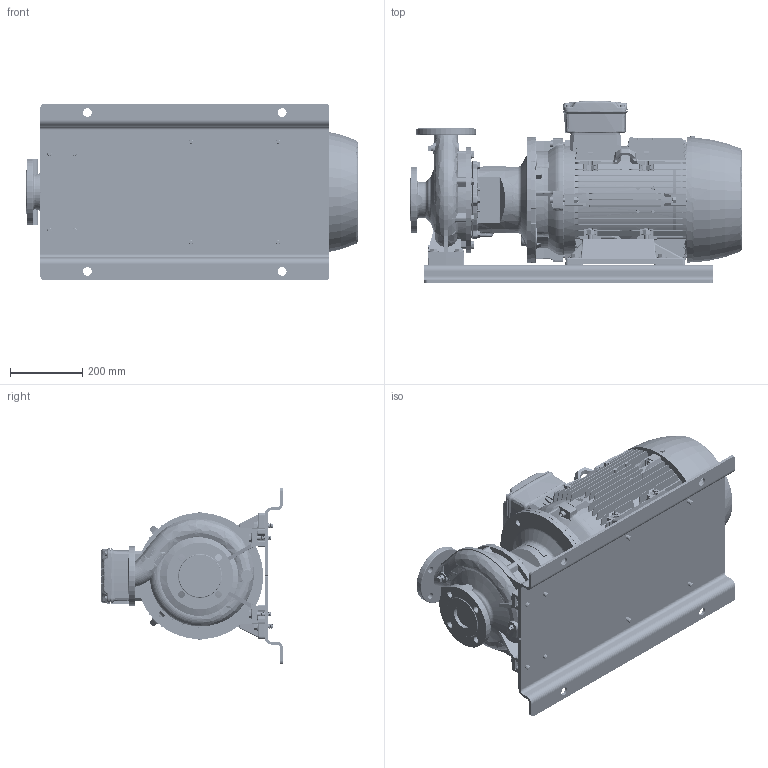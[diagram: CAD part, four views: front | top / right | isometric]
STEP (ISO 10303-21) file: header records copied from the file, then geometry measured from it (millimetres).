
FILE_DESCRIPTION (( 'STEP AP214' ), '1' );
FILE_NAME ('GSD2 50-200_22.0_(180ML)_W21_BP.STEP', '2024-04-26T06:34:49', ( '' ), ( '' ), 'SwSTEP 2.0', 'SolidWorks 2019', '' );
FILE_SCHEMA (( 'AUTOMOTIVE_DESIGN' ));
Length unit declared in the file: millimetre
Products named in the file (16): Parametric bolt and washer_SFT-A305B; 50-200-180M_L; Parametric bolt and washer_SFT-A309B; N5S3 GSDA-537 F1-1832928-00; Parametric bolt_SFT-A309B; 180M_L ALIE3_W21T_B35; Parametric bolt_SFT-A305B; GSD2  50-200_22.0_(180ML)_W21_BP; Parametric Flat Washer_M12; CGS11-5301_2_3_4_5_CGS11-5301
Assembly tree (29 placements, depth 3):
  GSD2  50-200_22.0_(180ML)_W21_BP
    50-200-180M_L
    N5S3 GSDA-537 F1-1832928-00
    CGS11-5301_2_3_4_5_CGS11-5301  x2
    Parametric bolt and washer_SFT-A309B
      Parametric bolt_SFT-A309B
      Parametric Flat Washer_M12
    Parametric bolt and washer_SFT-A309B
      Parametric bolt_SFT-A309B
      Parametric Flat Washer_M12
    Parametric bolt and washer_SFT-A309B
      Parametric bolt_SFT-A309B
      Parametric Flat Washer_M12
    Parametric bolt and washer_SFT-A309B
      Parametric bolt_SFT-A309B
      Parametric Flat Washer_M12
    180M_L ALIE3_W21T_B35
    Parametric bolt and washer_SFT-A305B
      Parametric bolt_SFT-A305B
      Parametric Flat Washer_M12
    Parametric bolt and washer_SFT-A305B
      Parametric bolt_SFT-A305B
      Parametric Flat Washer_M12
    Parametric bolt and washer_SFT-A305B
      Parametric bolt_SFT-A305B
      Parametric Flat Washer_M12
    Parametric bolt and washer_SFT-A305B
      Parametric bolt_SFT-A305B
      Parametric Flat Washer_M12
Bounding box: 919.8 x 504.53 x 490 mm (x, y, z)
Volume: 62026448.2 mm3; surface area: 4118654 mm2
Topology: 54 solids, 54 shells, 6503 faces, 16981 edges, 11055 vertices
Faces by surface type: plane 3908, cylinder 1234, cone 615, bspline 431, torus 299, sphere 16
Entity records: 233816 total; most frequent: CARTESIAN_POINT 76652, ORIENTED_EDGE 31932, DIRECTION 27105, EDGE_CURVE 15966, VERTEX_POINT 10403, VECTOR 9995, LINE 9995, AXIS2_PLACEMENT_3D 8555
